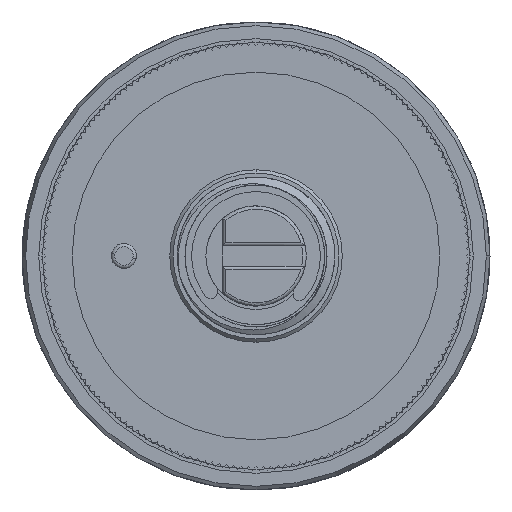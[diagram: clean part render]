
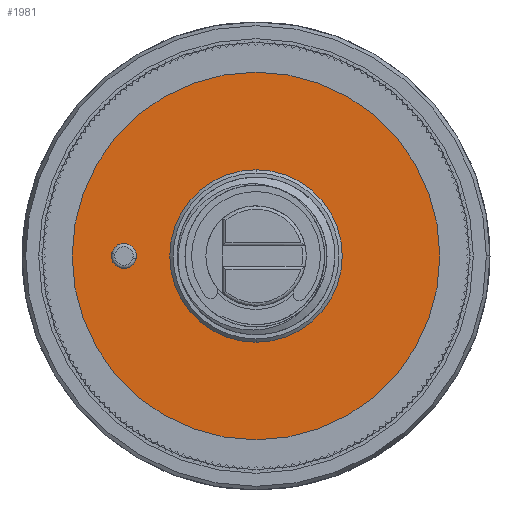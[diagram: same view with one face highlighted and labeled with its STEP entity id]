
A CAD part, left-side view. The second image highlights one B-rep face of the part: STEP entity #1981.
In plain terms, the highlighted planar face has unit normal (-1, 0, 0).
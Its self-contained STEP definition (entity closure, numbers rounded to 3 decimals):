
#97 = FACE_OUTER_BOUND ( 'NONE', #2050, .T. ) ;
#98 = FACE_BOUND ( 'NONE', #2047, .T. ) ;
#99 = DIRECTION ( 'NONE',  ( 0., 0., 1. ) ) ;
#100 = DIRECTION ( 'NONE',  ( -1., 0., 0. ) ) ;
#101 = CARTESIAN_POINT ( 'NONE',  ( -32.245, 7.414, 0. ) ) ;
#102 = AXIS2_PLACEMENT_3D ( 'NONE', #101, #100, #99 ) ;
#103 = CIRCLE ( 'NONE', #102, 5.16 ) ;
#104 = FACE_BOUND ( 'NONE', #2040, .T. ) ;
#134 = DIRECTION ( 'NONE',  ( 0., 0., -1. ) ) ;
#135 = DIRECTION ( 'NONE',  ( 1., 0., 0. ) ) ;
#136 = CARTESIAN_POINT ( 'NONE',  ( -32.245, 12.574, 0. ) ) ;
#137 = AXIS2_PLACEMENT_3D ( 'NONE', #136, #135, #134 ) ;
#139 = PLANE ( 'NONE',  #137 ) ;
#231 = DIRECTION ( 'NONE',  ( 0., 0., 1. ) ) ;
#232 = DIRECTION ( 'NONE',  ( -1., 0., 0. ) ) ;
#233 = CARTESIAN_POINT ( 'NONE',  ( -32.245, 15.314, 0. ) ) ;
#234 = AXIS2_PLACEMENT_3D ( 'NONE', #233, #232, #231 ) ;
#235 = CIRCLE ( 'NONE', #234, 0.7 ) ;
#237 = CARTESIAN_POINT ( 'NONE',  ( -32.245, 15.314, -0.7 ) ) ;
#238 = CARTESIAN_POINT ( 'NONE',  ( -32.245, 15.314, 0.7 ) ) ;
#239 = DIRECTION ( 'NONE',  ( 0., 0., 1. ) ) ;
#240 = DIRECTION ( 'NONE',  ( -1., 0., 0. ) ) ;
#241 = CARTESIAN_POINT ( 'NONE',  ( -32.245, 15.314, 0. ) ) ;
#242 = AXIS2_PLACEMENT_3D ( 'NONE', #241, #240, #239 ) ;
#243 = CIRCLE ( 'NONE', #242, 0.7 ) ;
#292 = DIRECTION ( 'NONE',  ( 0., 0., 1. ) ) ;
#293 = DIRECTION ( 'NONE',  ( -1., 0., 0. ) ) ;
#294 = CARTESIAN_POINT ( 'NONE',  ( -32.245, 7.414, 0. ) ) ;
#295 = AXIS2_PLACEMENT_3D ( 'NONE', #294, #293, #292 ) ;
#297 = CIRCLE ( 'NONE', #295, 11. ) ;
#1521 = VERTEX_POINT ( 'NONE', #8055 ) ;
#1523 = EDGE_CURVE ( 'NONE', #1524, #1521, #8054, .T. ) ;
#1524 = VERTEX_POINT ( 'NONE', #8049 ) ;
#1587 = EDGE_CURVE ( 'NONE', #1588, #1589, #8212, .T. ) ;
#1588 = VERTEX_POINT ( 'NONE', #8259 ) ;
#1589 = VERTEX_POINT ( 'NONE', #8258 ) ;
#1978 = EDGE_CURVE ( 'NONE', #1589, #1588, #103, .T. ) ;
#1981 = ADVANCED_FACE ( 'NONE', ( #104, #98, #97 ), #139, .F. ) ;
#2040 = EDGE_LOOP ( 'NONE', ( #2041, #2045 ) ) ;
#2041 = ORIENTED_EDGE ( 'NONE', *, *, #2042, .F. ) ;
#2042 = EDGE_CURVE ( 'NONE', #2043, #2044, #243, .T. ) ;
#2043 = VERTEX_POINT ( 'NONE', #238 ) ;
#2044 = VERTEX_POINT ( 'NONE', #237 ) ;
#2045 = ORIENTED_EDGE ( 'NONE', *, *, #2046, .F. ) ;
#2046 = EDGE_CURVE ( 'NONE', #2044, #2043, #235, .T. ) ;
#2047 = EDGE_LOOP ( 'NONE', ( #2048, #2049 ) ) ;
#2048 = ORIENTED_EDGE ( 'NONE', *, *, #1587, .F. ) ;
#2049 = ORIENTED_EDGE ( 'NONE', *, *, #1978, .F. ) ;
#2050 = EDGE_LOOP ( 'NONE', ( #2051, #2052 ) ) ;
#2051 = ORIENTED_EDGE ( 'NONE', *, *, #1523, .T. ) ;
#2052 = ORIENTED_EDGE ( 'NONE', *, *, #2053, .T. ) ;
#2053 = EDGE_CURVE ( 'NONE', #1521, #1524, #297, .T. ) ;
#8049 = CARTESIAN_POINT ( 'NONE',  ( -32.245, 7.414, 11. ) ) ;
#8050 = DIRECTION ( 'NONE',  ( 0., 0., 1. ) ) ;
#8051 = DIRECTION ( 'NONE',  ( -1., 0., 0. ) ) ;
#8052 = CARTESIAN_POINT ( 'NONE',  ( -32.245, 7.414, 0. ) ) ;
#8053 = AXIS2_PLACEMENT_3D ( 'NONE', #8052, #8051, #8050 ) ;
#8054 = CIRCLE ( 'NONE', #8053, 11. ) ;
#8055 = CARTESIAN_POINT ( 'NONE',  ( -32.245, 7.414, -11. ) ) ;
#8212 = CIRCLE ( 'NONE', #8263, 5.16 ) ;
#8258 = CARTESIAN_POINT ( 'NONE',  ( -32.245, 7.414, -5.16 ) ) ;
#8259 = CARTESIAN_POINT ( 'NONE',  ( -32.245, 7.414, 5.16 ) ) ;
#8260 = DIRECTION ( 'NONE',  ( 0., 0., 1. ) ) ;
#8261 = DIRECTION ( 'NONE',  ( -1., 0., 0. ) ) ;
#8262 = CARTESIAN_POINT ( 'NONE',  ( -32.245, 7.414, 0. ) ) ;
#8263 = AXIS2_PLACEMENT_3D ( 'NONE', #8262, #8261, #8260 ) ;
